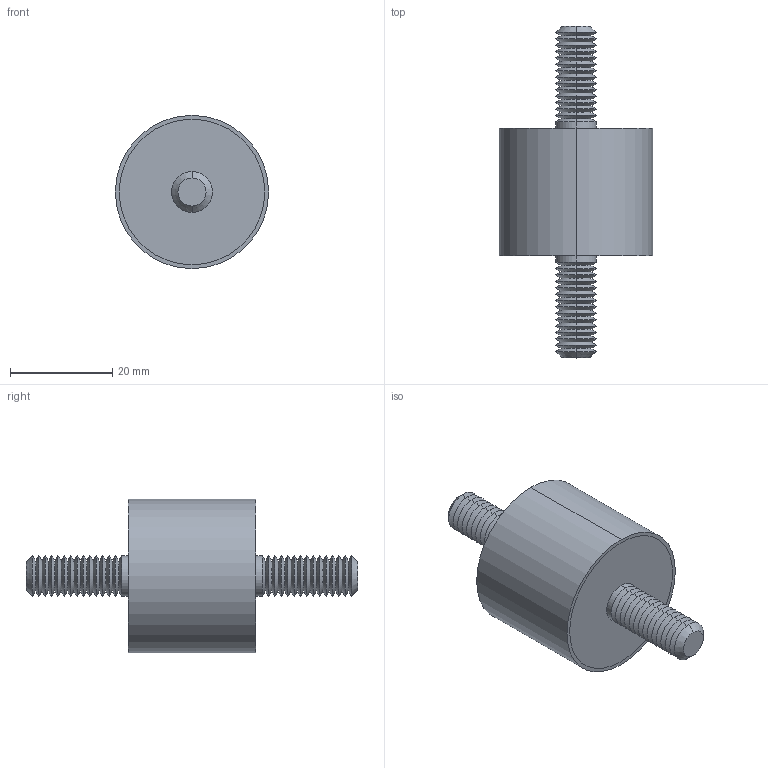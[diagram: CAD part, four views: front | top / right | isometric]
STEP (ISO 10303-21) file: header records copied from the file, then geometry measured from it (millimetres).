
FILE_DESCRIPTION (( 'STEP AP203' ), '1' );
FILE_NAME ('61040.W0305.step', '2019-09-24T22:33:52', ( '' ), ( '' ), 'SwSTEP 2.0', 'SolidWorks 2017', '' );
FILE_SCHEMA (( 'CONFIG_CONTROL_DESIGN' ));
Length unit declared in the file: millimetre
Products named in the file (4): Part1_61040.W0305; Part2_61040.W0305; Part3_61040.W0305; 61040.W0305
Assembly tree (3 placements, depth 2):
  61040.W0305
    Part1_61040.W0305
    Part2_61040.W0305
    Part3_61040.W0305
Bounding box: 30 x 65 x 30 mm (x, y, z)
Volume: 19213.7 mm3; surface area: 8285.8 mm2
Topology: 3 solids, 3 shells, 140 faces, 274 edges, 144 vertices
Faces by surface type: cone 116, cylinder 14, plane 10
Entity records: 3908 total; most frequent: DIRECTION 710, CARTESIAN_POINT 564, ORIENTED_EDGE 548, AXIS2_PLACEMENT_3D 290, EDGE_CURVE 274, EDGE_LOOP 144, CIRCLE 144, VERTEX_POINT 144
